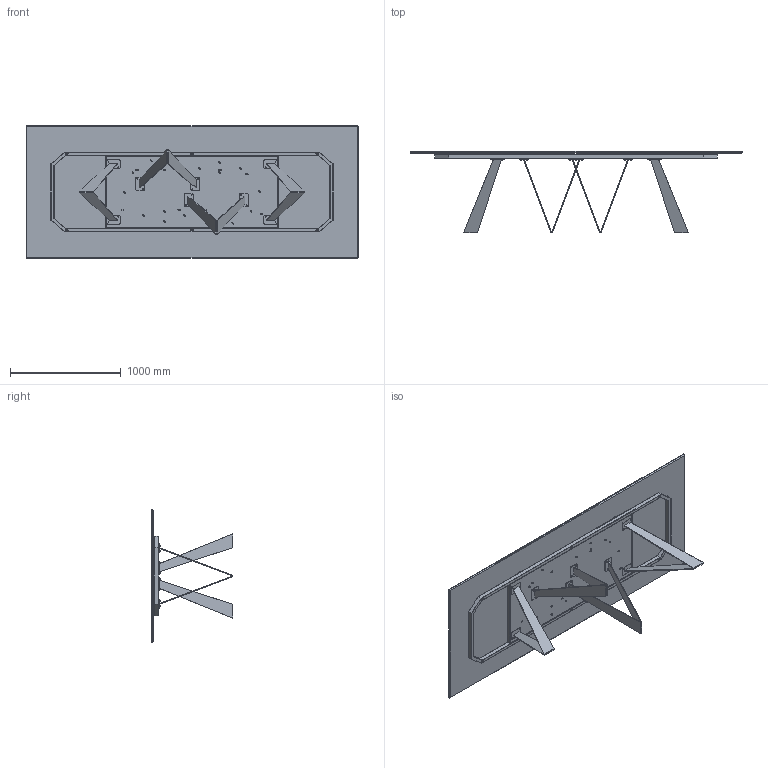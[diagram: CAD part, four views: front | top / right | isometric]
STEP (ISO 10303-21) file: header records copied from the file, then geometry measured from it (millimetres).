
FILE_DESCRIPTION (( 'STEP AP203' ), '1' );
FILE_NAME ('NO24C_Noa_300x120x75h_Ceramic Rectangular.STEP', '2024-08-07T14:31:51', ( '' ), ( '' ), 'SwSTEP 2.0', 'SolidWorks 2022', '' );
FILE_SCHEMA (( 'CONFIG_CONTROL_DESIGN' ));
Length unit declared in the file: millimetre
Products named in the file (13): 434070-00-PIEDINO TPV GOMMA NERO D. 30x8max18; NO24C_Noa_300x120x75h_Ceramic Rectangular; NOA000001GMB-00-Piastra Principale gamba NOA_Piatto SX; TTAV07-04-TELAIO X TAVOLI PLAI ONDA NOA 300; TTAV07_01-04-STRUTTURA TAVOLI PLAI ONDA NOA 300; NOA000000-00-NOA BASE GREZZA; MAPPA; K2XCMXX-00-Piani Rettangolari in ceramica_3000 x 1200; Assieme NOA var 3_noa 300-320; TTAV07_02-01-VASSOIO TELAIO  PLAI ONDA NOA 300; M8xXXmm_M8x20mm; NOA000001GMB-00-Piastra Principale gamba NOA_Piatto DX; NOA000001PTRS-00-Piastra rettangoalre con fori
Assembly tree (34 placements, depth 4):
  NO24C_Noa_300x120x75h_Ceramic Rectangular
    K2XCMXX-00-Piani Rettangolari in ceramica_3000 x 1200
    Assieme NOA var 3_noa 300-320
      NOA000000-00-NOA BASE GREZZA  x4
        NOA000001GMB-00-Piastra Principale gamba NOA_Piatto SX
        NOA000001GMB-00-Piastra Principale gamba NOA_Piatto DX
        NOA000001PTRS-00-Piastra rettangoalre con fori
      TTAV07-04-TELAIO X TAVOLI PLAI ONDA NOA 300
        TTAV07_01-04-STRUTTURA TAVOLI PLAI ONDA NOA 300
        TTAV07_02-01-VASSOIO TELAIO  PLAI ONDA NOA 300
    M8xXXmm_M8x20mm  x16
    434070-00-PIEDINO TPV GOMMA NERO D. 30x8max18  x5
  MAPPA
Bounding box: 3000 x 735.8 x 1200 mm (x, y, z)
Volume: 68571058.6 mm3; surface area: 19907835.9 mm2
Topology: 46 solids, 46 shells, 1142 faces, 2700 edges, 1628 vertices
Faces by surface type: plane 518, cylinder 348, cone 176, torus 84, sphere 16
Entity records: 16551 total; most frequent: CARTESIAN_POINT 2614, DIRECTION 2599, ORIENTED_EDGE 2412, EDGE_CURVE 1206, AXIS2_PLACEMENT_3D 931, VERTEX_POINT 764, VECTOR 737, LINE 737
